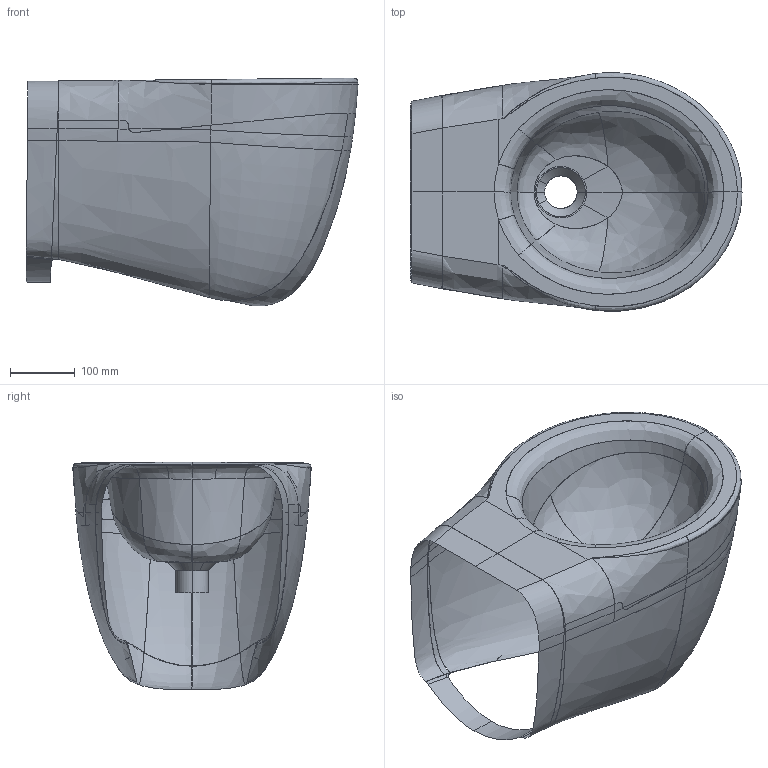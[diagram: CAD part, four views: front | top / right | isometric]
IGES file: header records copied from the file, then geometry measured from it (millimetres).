
Start section: START RECORD GO HERE.
Global section: file name: Bidet sospeso.igs; native system: IBM CATIA IGES - CATIA Version 5 Release 17 ; preprocessor: CATIA Version 5 Release 17 ; author: Luca; organization: PC-Luca; date: 20121108.153301; units: millimetre
Bounding box: 512.8 x 368.62 x 351.98 mm (x, y, z)
Surface area: 630818.9 mm2 (no closed solid volume)
Topology: 0 solids, 0 shells, 102 faces, 654 edges, 650 vertices
Faces by surface type: bspline 102
